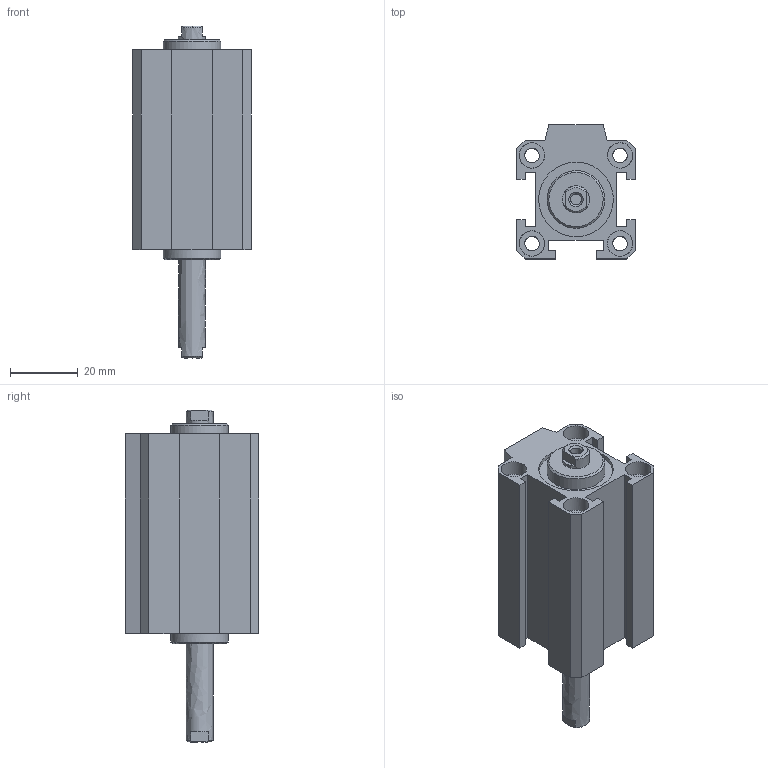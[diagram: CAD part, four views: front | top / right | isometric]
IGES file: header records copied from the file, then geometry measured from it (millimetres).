
Global section: file name: 1514_20_0025; native system: Autodesk Inventor 2014; preprocessor: unknown; author: A. Manieri; date: 20160824.110433; units: millimetre
Bounding box: 35 x 39.5 x 98 mm (x, y, z)
Volume: 51650.9 mm3; surface area: 25839.7 mm2
Topology: 2 solids, 2 shells, 104 faces, 272 edges, 192 vertices
Faces by surface type: bspline 104
